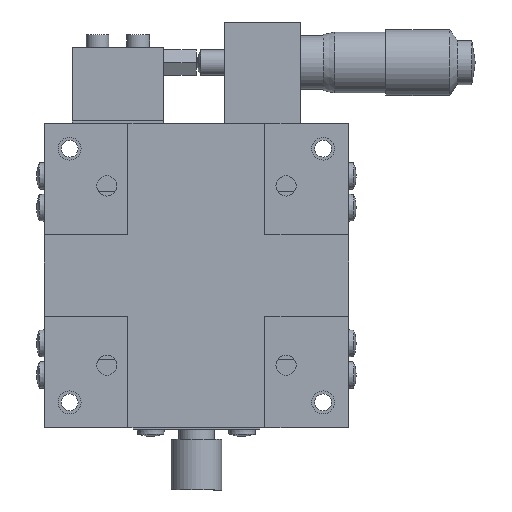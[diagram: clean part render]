
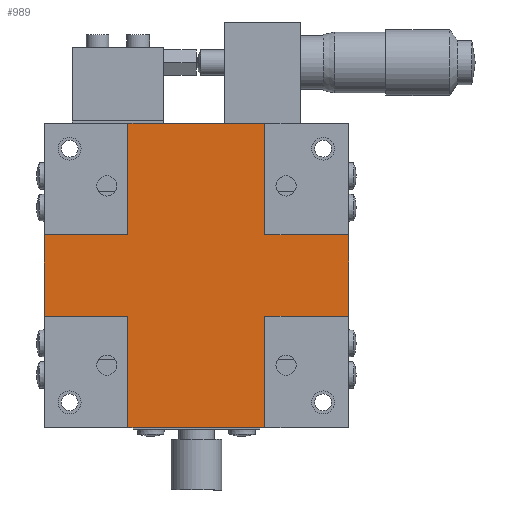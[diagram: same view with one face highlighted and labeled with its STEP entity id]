
A CAD part, front view. The second image highlights one B-rep face of the part: STEP entity #989.
In plain terms, the highlighted planar face has unit normal (0, -1, 0).
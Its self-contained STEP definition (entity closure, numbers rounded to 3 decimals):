
#889 = VERTEX_POINT ( 'NONE', #4206 ) ;
#891 = EDGE_CURVE ( 'NONE', #889, #892, #4205, .T. ) ;
#892 = VERTEX_POINT ( 'NONE', #4201 ) ;
#912 = EDGE_CURVE ( 'NONE', #915, #960, #4357, .T. ) ;
#914 = EDGE_CURVE ( 'NONE', #915, #1034, #4353, .T. ) ;
#915 = VERTEX_POINT ( 'NONE', #4349 ) ;
#949 = EDGE_CURVE ( 'NONE', #889, #1044, #4171, .T. ) ;
#960 = VERTEX_POINT ( 'NONE', #4251 ) ;
#985 = VERTEX_POINT ( 'NONE', #4287 ) ;
#987 = EDGE_CURVE ( 'NONE', #985, #1004, #4286, .T. ) ;
#989 = ADVANCED_FACE ( 'NONE', ( #4282 ), #4281, .T. ) ;
#990 = EDGE_LOOP ( 'NONE', ( #1300, #1303, #1302, #1229, #1230, #1231, #1232, #1265, #1267, #1268, #1269, #1206 ) ) ;
#1004 = VERTEX_POINT ( 'NONE', #4262 ) ;
#1006 = EDGE_CURVE ( 'NONE', #1004, #1060, #4261, .T. ) ;
#1034 = VERTEX_POINT ( 'NONE', #4605 ) ;
#1043 = EDGE_CURVE ( 'NONE', #1049, #1044, #4596, .T. ) ;
#1044 = VERTEX_POINT ( 'NONE', #4592 ) ;
#1048 = EDGE_CURVE ( 'NONE', #1063, #1049, #4587, .T. ) ;
#1049 = VERTEX_POINT ( 'NONE', #4583 ) ;
#1060 = VERTEX_POINT ( 'NONE', #4507 ) ;
#1062 = EDGE_CURVE ( 'NONE', #1060, #1063, #4506, .T. ) ;
#1063 = VERTEX_POINT ( 'NONE', #4502 ) ;
#1170 = EDGE_CURVE ( 'NONE', #892, #1034, #4527, .T. ) ;
#1206 = ORIENTED_EDGE ( 'NONE', *, *, #891, .F. ) ;
#1229 = ORIENTED_EDGE ( 'NONE', *, *, #1062, .F. ) ;
#1230 = ORIENTED_EDGE ( 'NONE', *, *, #1006, .F. ) ;
#1231 = ORIENTED_EDGE ( 'NONE', *, *, #987, .F. ) ;
#1232 = ORIENTED_EDGE ( 'NONE', *, *, #1233, .T. ) ;
#1233 = EDGE_CURVE ( 'NONE', #985, #1234, #4750, .T. ) ;
#1234 = VERTEX_POINT ( 'NONE', #4746 ) ;
#1265 = ORIENTED_EDGE ( 'NONE', *, *, #1266, .F. ) ;
#1266 = EDGE_CURVE ( 'NONE', #960, #1234, #4807, .T. ) ;
#1267 = ORIENTED_EDGE ( 'NONE', *, *, #912, .F. ) ;
#1268 = ORIENTED_EDGE ( 'NONE', *, *, #914, .T. ) ;
#1269 = ORIENTED_EDGE ( 'NONE', *, *, #1170, .F. ) ;
#1300 = ORIENTED_EDGE ( 'NONE', *, *, #949, .T. ) ;
#1302 = ORIENTED_EDGE ( 'NONE', *, *, #1048, .F. ) ;
#1303 = ORIENTED_EDGE ( 'NONE', *, *, #1043, .F. ) ;
#4168 = DIRECTION ( 'NONE',  ( 1., 0., 0. ) ) ;
#4169 = VECTOR ( 'NONE', #4168, 1000. ) ;
#4170 = CARTESIAN_POINT ( 'NONE',  ( -30., 0.5, -30. ) ) ;
#4171 = LINE ( 'NONE', #4170, #4169 ) ;
#4201 = CARTESIAN_POINT ( 'NONE',  ( -13.5, 0.5, -8. ) ) ;
#4202 = DIRECTION ( 'NONE',  ( 0., 0., 1. ) ) ;
#4203 = VECTOR ( 'NONE', #4202, 1000. ) ;
#4204 = CARTESIAN_POINT ( 'NONE',  ( -13.5, 0.5, -30. ) ) ;
#4205 = LINE ( 'NONE', #4204, #4203 ) ;
#4206 = CARTESIAN_POINT ( 'NONE',  ( -13.5, 0.5, -30. ) ) ;
#4251 = CARTESIAN_POINT ( 'NONE',  ( -13.5, 0.5, 8. ) ) ;
#4258 = DIRECTION ( 'NONE',  ( 1., 0., 0. ) ) ;
#4259 = VECTOR ( 'NONE', #4258, 1000. ) ;
#4260 = CARTESIAN_POINT ( 'NONE',  ( 30., 0.5, 8. ) ) ;
#4261 = LINE ( 'NONE', #4260, #4259 ) ;
#4262 = CARTESIAN_POINT ( 'NONE',  ( 13.5, 0.5, 8. ) ) ;
#4277 = DIRECTION ( 'NONE',  ( 0., 0., 1. ) ) ;
#4278 = DIRECTION ( 'NONE',  ( 0., -1., 0. ) ) ;
#4279 = CARTESIAN_POINT ( 'NONE',  ( 0., 0.5, 0. ) ) ;
#4280 = AXIS2_PLACEMENT_3D ( 'NONE', #4279, #4278, #4277 ) ;
#4281 = PLANE ( 'NONE',  #4280 ) ;
#4282 = FACE_OUTER_BOUND ( 'NONE', #990, .T. ) ;
#4283 = DIRECTION ( 'NONE',  ( 0., 0., -1. ) ) ;
#4284 = VECTOR ( 'NONE', #4283, 1000. ) ;
#4285 = CARTESIAN_POINT ( 'NONE',  ( 13.5, 0.5, 30. ) ) ;
#4286 = LINE ( 'NONE', #4285, #4284 ) ;
#4287 = CARTESIAN_POINT ( 'NONE',  ( 13.5, 0.5, 30. ) ) ;
#4349 = CARTESIAN_POINT ( 'NONE',  ( -30., 0.5, 8. ) ) ;
#4350 = DIRECTION ( 'NONE',  ( 0., 0., -1. ) ) ;
#4351 = VECTOR ( 'NONE', #4350, 1000. ) ;
#4352 = CARTESIAN_POINT ( 'NONE',  ( -30., 0.5, -3.2 ) ) ;
#4353 = LINE ( 'NONE', #4352, #4351 ) ;
#4354 = DIRECTION ( 'NONE',  ( 1., 0., 0. ) ) ;
#4355 = VECTOR ( 'NONE', #4354, 1000. ) ;
#4356 = CARTESIAN_POINT ( 'NONE',  ( -30., 0.5, 8. ) ) ;
#4357 = LINE ( 'NONE', #4356, #4355 ) ;
#4502 = CARTESIAN_POINT ( 'NONE',  ( 30., 0.5, -8. ) ) ;
#4503 = DIRECTION ( 'NONE',  ( 0., 0., -1. ) ) ;
#4504 = VECTOR ( 'NONE', #4503, 1000. ) ;
#4505 = CARTESIAN_POINT ( 'NONE',  ( 30., 0.5, -3.2 ) ) ;
#4506 = LINE ( 'NONE', #4505, #4504 ) ;
#4507 = CARTESIAN_POINT ( 'NONE',  ( 30., 0.5, 8. ) ) ;
#4524 = DIRECTION ( 'NONE',  ( -1., 0., 0. ) ) ;
#4525 = VECTOR ( 'NONE', #4524, 1000. ) ;
#4526 = CARTESIAN_POINT ( 'NONE',  ( -30., 0.5, -8. ) ) ;
#4527 = LINE ( 'NONE', #4526, #4525 ) ;
#4583 = CARTESIAN_POINT ( 'NONE',  ( 13.5, 0.5, -8. ) ) ;
#4584 = DIRECTION ( 'NONE',  ( -1., 0., 0. ) ) ;
#4585 = VECTOR ( 'NONE', #4584, 1000. ) ;
#4586 = CARTESIAN_POINT ( 'NONE',  ( 30., 0.5, -8. ) ) ;
#4587 = LINE ( 'NONE', #4586, #4585 ) ;
#4592 = CARTESIAN_POINT ( 'NONE',  ( 13.5, 0.5, -30. ) ) ;
#4593 = DIRECTION ( 'NONE',  ( 0., 0., -1. ) ) ;
#4594 = VECTOR ( 'NONE', #4593, 1000. ) ;
#4595 = CARTESIAN_POINT ( 'NONE',  ( 13.5, 0.5, -30. ) ) ;
#4596 = LINE ( 'NONE', #4595, #4594 ) ;
#4605 = CARTESIAN_POINT ( 'NONE',  ( -30., 0.5, -8. ) ) ;
#4746 = CARTESIAN_POINT ( 'NONE',  ( -13.5, 0.5, 30. ) ) ;
#4747 = DIRECTION ( 'NONE',  ( -1., 0., 0. ) ) ;
#4748 = VECTOR ( 'NONE', #4747, 1000. ) ;
#4749 = CARTESIAN_POINT ( 'NONE',  ( -30., 0.5, 30. ) ) ;
#4750 = LINE ( 'NONE', #4749, #4748 ) ;
#4800 = DIRECTION ( 'NONE',  ( 0., 0., 1. ) ) ;
#4801 = VECTOR ( 'NONE', #4800, 1000. ) ;
#4802 = CARTESIAN_POINT ( 'NONE',  ( -13.5, 0.5, 30. ) ) ;
#4807 = LINE ( 'NONE', #4802, #4801 ) ;
